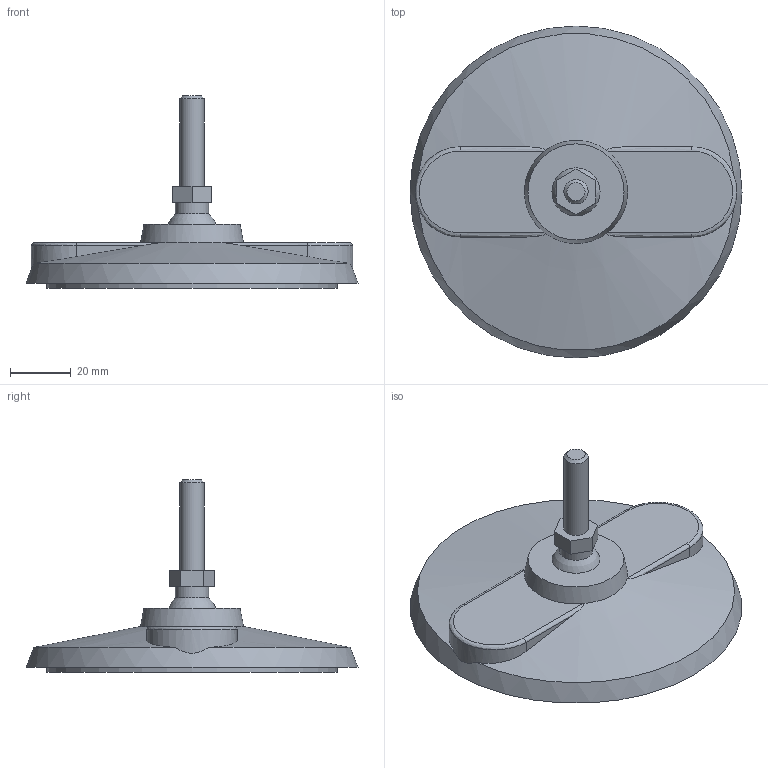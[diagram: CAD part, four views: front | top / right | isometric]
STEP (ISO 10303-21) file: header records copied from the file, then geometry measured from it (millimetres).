
FILE_DESCRIPTION( ('This file contains a STEP AP42 implementation' ,'as created by ZW3D STEP Interface translator.') ,'2;1' );
FILE_NAME( 'Stopa wahliwa D110.stp' ,'26 820. 94447', (''), ('ZWCAD Software Co.'), 'Version 1.0', 'ZW3D to STEP translator', '' );
FILE_SCHEMA(('AP242_MANAGED_MODEL_BASED_3D_ENGINEERING_MIM_LF { 1 0 10303 442 1 1 4 }'));
Length unit declared in the file: millimetre
Products named in the file (1): 0
Bounding box: 109.71 x 109.71 x 63.6 mm (x, y, z)
Volume: 100463.8 mm3; surface area: 44625.2 mm2
Topology: 3 solids, 3 shells, 129 faces, 326 edges, 208 vertices
Faces by surface type: plane 63, bspline 61, sphere 2, cylinder 2, cone 1
Full cylindrical faces by diameter (mm): 8 x1, 11 x1
Entity records: 4467 total; most frequent: CARTESIAN_POINT 1705, ORIENTED_EDGE 628, DIRECTION 460, EDGE_CURVE 314, VERTEX_POINT 208, AXIS2_PLACEMENT_3D 180, EDGE_LOOP 146, FACE_OUTER_BOUND 129
